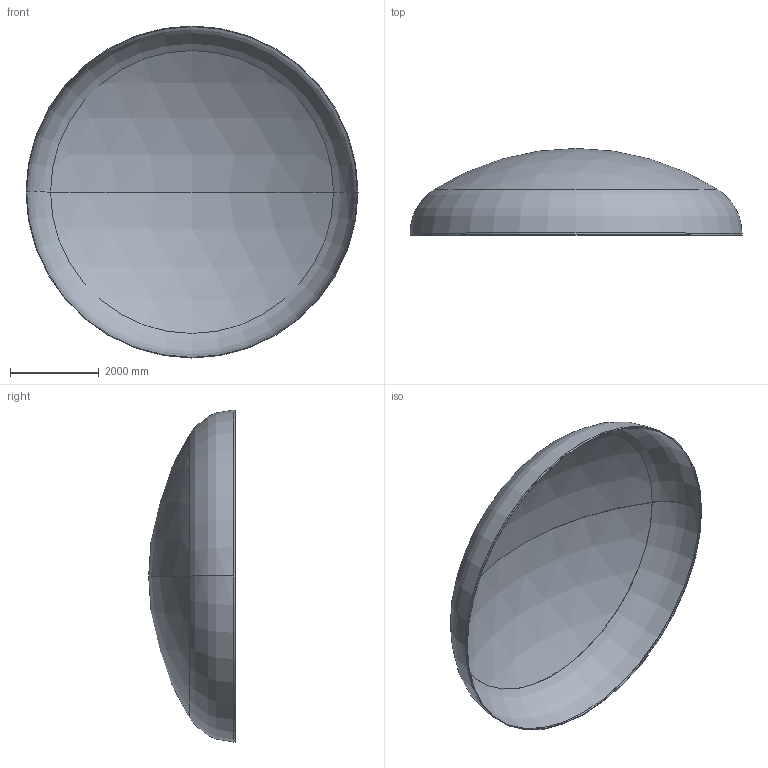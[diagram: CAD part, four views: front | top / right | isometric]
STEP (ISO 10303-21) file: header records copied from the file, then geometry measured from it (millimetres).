
FILE_DESCRIPTION (( 'STEP AP203' ), '1' );
FILE_NAME ('DIN 28013 Korbbogenform_-_Boden DIN 28013 - 7500 x 45 - I - s=14.step', '2016-07-04T10:51:35', ( '' ), ( '' ), 'SwSTEP 2.0', 'SolidWorks 2013', '' );
FILE_SCHEMA (( 'CONFIG_CONTROL_DESIGN' ));
Length unit declared in the file: millimetre
Products named in the file (1): DIN 28013 Korbbogenform_-_Boden DIN 28013 - 7500 x 45 - I - s=14
Bounding box: 7500 x 1958.7 x 7500 mm (x, y, z)
Volume: 869400761.8 mm3; surface area: 124529719.4 mm2
Topology: 1 solids, 1 shells, 13 faces, 24 edges, 14 vertices
Faces by surface type: torus 4, cylinder 4, sphere 4, plane 1
Entity records: 407 total; most frequent: DIRECTION 72, CARTESIAN_POINT 52, ORIENTED_EDGE 48, AXIS2_PLACEMENT_3D 34, EDGE_CURVE 24, CIRCLE 20, EDGE_LOOP 14, VERTEX_POINT 14
